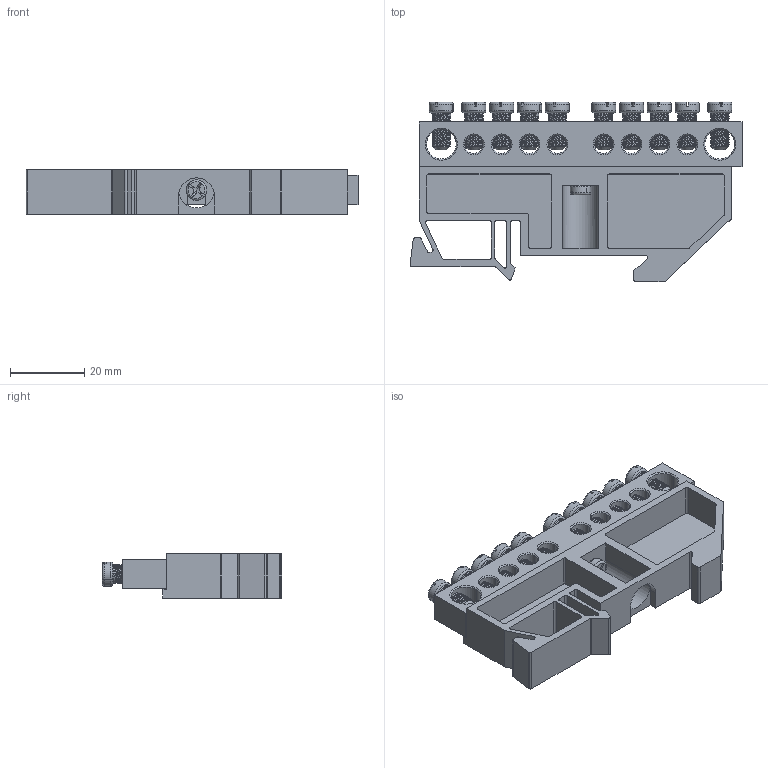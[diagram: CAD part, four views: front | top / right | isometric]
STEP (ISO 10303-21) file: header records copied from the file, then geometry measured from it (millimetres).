
FILE_DESCRIPTION (( 'STEP AP214' ), '1' );
FILE_NAME ('Øèíà íóëåâàÿ ñ DIN èçîëÿòîðîì 8õ12 10.STEP', '2020-02-06T11:36:23', ( '' ), ( '' ), 'SwSTEP 2.0', 'SolidWorks 2018', '' );
FILE_SCHEMA (( 'AUTOMOTIVE_DESIGN' ));
Length unit declared in the file: millimetre
Products named in the file (6): Øèíà 8õ12 10 1; Âèíò ì4; DIN èçîëÿòîð; Øèíà íóëåâàÿ ñ DIN èçîëÿòîðîì 8õ12 10; Øèíà íóëåâàÿ ñ êðåïåæíûì îòâåðñòèåì ïî öåíòðó 8õ12 10-1_1; Âèíò ì5
Assembly tree (14 placements, depth 3):
  Øèíà íóëåâàÿ ñ DIN èçîëÿòîðîì 8õ12 10
    DIN èçîëÿòîð
    Âèíò ì4
    Øèíà íóëåâàÿ ñ êðåïåæíûì îòâåðñòèåì ïî öåíòðó 8õ12 10-1_1
      Øèíà 8õ12 10 1
      Âèíò ì5  x10
Bounding box: 89.43 x 48.3 x 12 mm (x, y, z)
Volume: 20076 mm3; surface area: 18802.6 mm2
Topology: 13 solids, 13 shells, 1050 faces, 2905 edges, 1862 vertices
Faces by surface type: cylinder 406, plane 373, cone 149, torus 78, bspline 34, sphere 10
Entity records: 16516 total; most frequent: CARTESIAN_POINT 6808, ORIENTED_EDGE 2004, DIRECTION 1883, EDGE_CURVE 1002, AXIS2_PLACEMENT_3D 693, VERTEX_POINT 638, VECTOR 497, LINE 497
